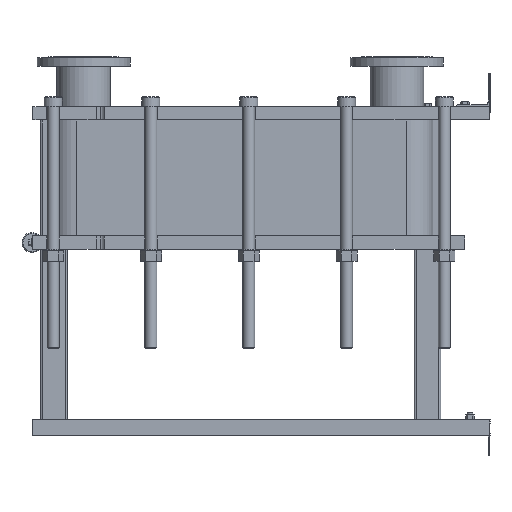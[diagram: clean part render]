
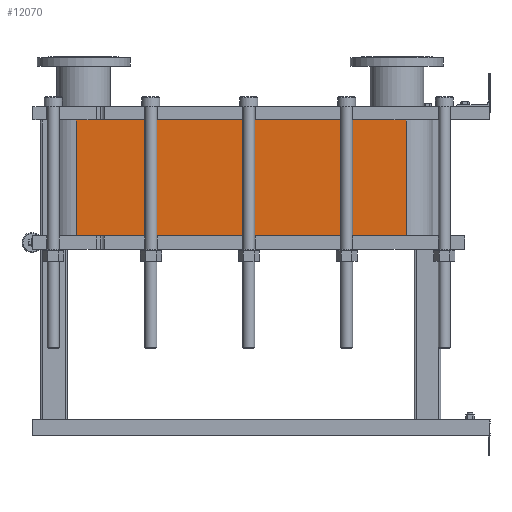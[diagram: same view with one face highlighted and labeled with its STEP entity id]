
A CAD part, left-side view. The second image highlights one B-rep face of the part: STEP entity #12070.
In plain terms, the highlighted planar face has unit normal (-1, 0, 0).
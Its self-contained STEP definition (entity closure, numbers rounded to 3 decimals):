
#1064=LINE('',#21140,#2164);
#1065=LINE('',#21144,#2165);
#1066=LINE('',#21146,#2166);
#1067=LINE('',#21147,#2167);
#2164=VECTOR('',#15790,10.);
#2165=VECTOR('',#15795,10.);
#2166=VECTOR('',#15796,10.);
#2167=VECTOR('',#15797,10.);
#3304=FACE_OUTER_BOUND('',#4091,.T.);
#4091=EDGE_LOOP('',(#9793,#9794,#9795,#9796));
#5677=VERTEX_POINT('',#21137);
#5678=VERTEX_POINT('',#21139);
#5679=VERTEX_POINT('',#21143);
#5680=VERTEX_POINT('',#21145);
#7118=EDGE_CURVE('',#5678,#5677,#1064,.T.);
#7120=EDGE_CURVE('',#5677,#5679,#1065,.T.);
#7121=EDGE_CURVE('',#5680,#5679,#1066,.T.);
#7122=EDGE_CURVE('',#5680,#5678,#1067,.T.);
#9793=ORIENTED_EDGE('',*,*,#7120,.T.);
#9794=ORIENTED_EDGE('',*,*,#7121,.F.);
#9795=ORIENTED_EDGE('',*,*,#7122,.T.);
#9796=ORIENTED_EDGE('',*,*,#7118,.T.);
#11441=PLANE('',#13191);
#12070=ADVANCED_FACE('',(#3304),#11441,.T.);
#13191=AXIS2_PLACEMENT_3D('',#21142,#15793,#15794);
#15790=DIRECTION('',(0.,0.,-1.));
#15793=DIRECTION('center_axis',(-1.,0.,0.));
#15794=DIRECTION('ref_axis',(0.,1.,0.));
#15795=DIRECTION('',(0.,-1.,0.));
#15796=DIRECTION('',(0.,0.,-1.));
#15797=DIRECTION('',(0.,1.,0.));
#21137=CARTESIAN_POINT('',(-248.152,1243.818,-348.45));
#21139=CARTESIAN_POINT('',(-248.152,1243.818,0.));
#21140=CARTESIAN_POINT('',(-248.152,1243.818,0.));
#21142=CARTESIAN_POINT('Origin',(-248.152,251.818,0.));
#21143=CARTESIAN_POINT('',(-248.152,251.818,-348.45));
#21144=CARTESIAN_POINT('',(-248.152,499.818,-348.45));
#21145=CARTESIAN_POINT('',(-248.152,251.818,0.));
#21146=CARTESIAN_POINT('',(-248.152,251.818,0.));
#21147=CARTESIAN_POINT('',(-248.152,251.818,0.));
